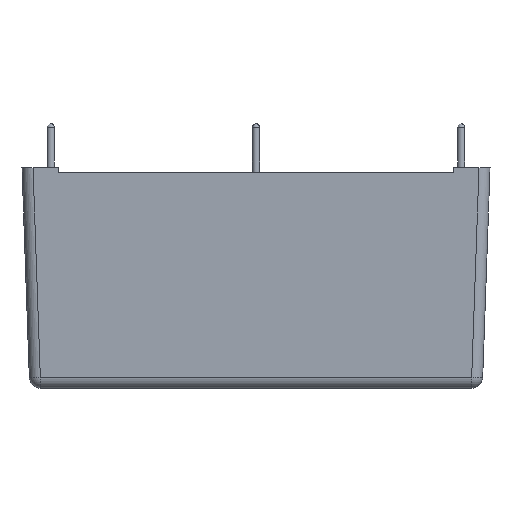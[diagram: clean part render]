
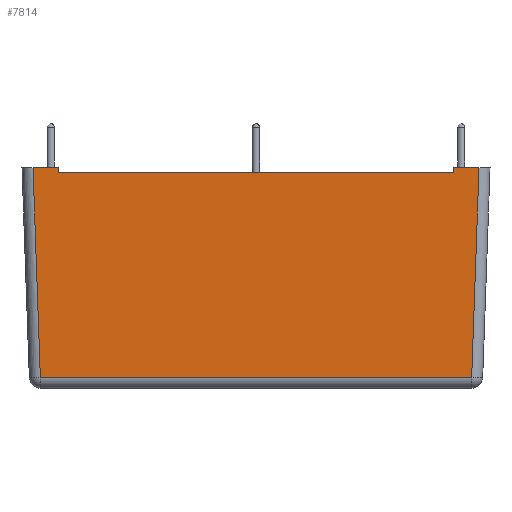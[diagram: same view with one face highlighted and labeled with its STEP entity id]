
A CAD part, front view. The second image highlights one B-rep face of the part: STEP entity #7814.
In plain terms, the highlighted planar face has unit normal (0, -0.999, -0.035).
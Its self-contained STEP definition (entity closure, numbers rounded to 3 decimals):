
#145=LINE('',#10818,#1122);
#207=LINE('',#10958,#1184);
#210=LINE('',#10965,#1187);
#224=LINE('',#10993,#1201);
#332=LINE('',#11231,#1309);
#334=LINE('',#11236,#1311);
#337=LINE('',#11240,#1314);
#350=LINE('',#11265,#1327);
#1122=VECTOR('',#8791,58.708);
#1184=VECTOR('',#8919,28.587);
#1187=VECTOR('',#8926,28.587);
#1201=VECTOR('',#8948,3.501);
#1309=VECTOR('',#9178,0.7);
#1311=VECTOR('',#9182,0.7);
#1314=VECTOR('',#9187,53.7);
#1327=VECTOR('',#9216,3.501);
#2138=PLANE('',#8290);
#2629=FACE_OUTER_BOUND('',#3069,.T.);
#3069=EDGE_LOOP('',(#6019,#6020,#6021,#6022,#6023,#6024,#6025,#6026));
#3604=VERTEX_POINT('',#10806);
#3607=VERTEX_POINT('',#10816);
#3652=VERTEX_POINT('',#10956);
#3653=VERTEX_POINT('',#10961);
#3664=VERTEX_POINT('',#10992);
#3733=VERTEX_POINT('',#11230);
#3734=VERTEX_POINT('',#11234);
#3735=VERTEX_POINT('',#11235);
#4378=EDGE_CURVE('',#3607,#3604,#145,.T.);
#4448=EDGE_CURVE('',#3652,#3607,#207,.T.);
#4452=EDGE_CURVE('',#3604,#3653,#210,.T.);
#4466=EDGE_CURVE('',#3664,#3653,#224,.T.);
#4584=EDGE_CURVE('',#3733,#3664,#332,.T.);
#4586=EDGE_CURVE('',#3734,#3735,#334,.T.);
#4589=EDGE_CURVE('',#3735,#3733,#337,.T.);
#4602=EDGE_CURVE('',#3652,#3734,#350,.T.);
#6019=ORIENTED_EDGE('',*,*,#4448,.F.);
#6020=ORIENTED_EDGE('',*,*,#4602,.T.);
#6021=ORIENTED_EDGE('',*,*,#4586,.T.);
#6022=ORIENTED_EDGE('',*,*,#4589,.T.);
#6023=ORIENTED_EDGE('',*,*,#4584,.T.);
#6024=ORIENTED_EDGE('',*,*,#4466,.T.);
#6025=ORIENTED_EDGE('',*,*,#4452,.F.);
#6026=ORIENTED_EDGE('',*,*,#4378,.F.);
#7814=ADVANCED_FACE('',(#2629),#2138,.T.);
#8290=AXIS2_PLACEMENT_3D('',#11267,#9219,#9220);
#8791=DIRECTION('',(-1.,0.,0.));
#8919=DIRECTION('',(-0.035,0.035,-0.999));
#8926=DIRECTION('',(-0.035,-0.035,0.999));
#8948=DIRECTION('',(-1.,0.,0.));
#9178=DIRECTION('',(0.,-0.035,0.999));
#9182=DIRECTION('',(0.,0.035,-0.999));
#9187=DIRECTION('',(-1.,0.,0.));
#9216=DIRECTION('',(-1.,0.,0.));
#9219=DIRECTION('center_axis',(0.,-0.999,-0.035));
#9220=DIRECTION('ref_axis',(0.,0.035,-0.999));
#10806=CARTESIAN_POINT('',(-29.354,-43.553,1.448));
#10816=CARTESIAN_POINT('',(29.354,-43.553,1.448));
#10818=CARTESIAN_POINT('',(15.925,-43.553,1.448));
#10956=CARTESIAN_POINT('',(30.351,-44.55,30.));
#10958=CARTESIAN_POINT('',(29.253,-43.452,-1.445));
#10961=CARTESIAN_POINT('',(-30.351,-44.55,30.));
#10965=CARTESIAN_POINT('',(-29.268,-43.467,-1.003));
#10992=CARTESIAN_POINT('',(-26.85,-44.55,30.));
#10993=CARTESIAN_POINT('',(31.85,-44.55,30.));
#11230=CARTESIAN_POINT('',(-26.85,-44.526,29.3));
#11231=CARTESIAN_POINT('',(-26.85,-44.026,15.));
#11234=CARTESIAN_POINT('',(26.85,-44.55,30.));
#11235=CARTESIAN_POINT('',(26.85,-44.526,29.3));
#11236=CARTESIAN_POINT('',(26.85,-44.027,15.009));
#11240=CARTESIAN_POINT('',(15.925,-44.526,29.3));
#11265=CARTESIAN_POINT('',(31.85,-44.55,30.));
#11267=CARTESIAN_POINT('Origin',(31.85,-43.503,0.018));
